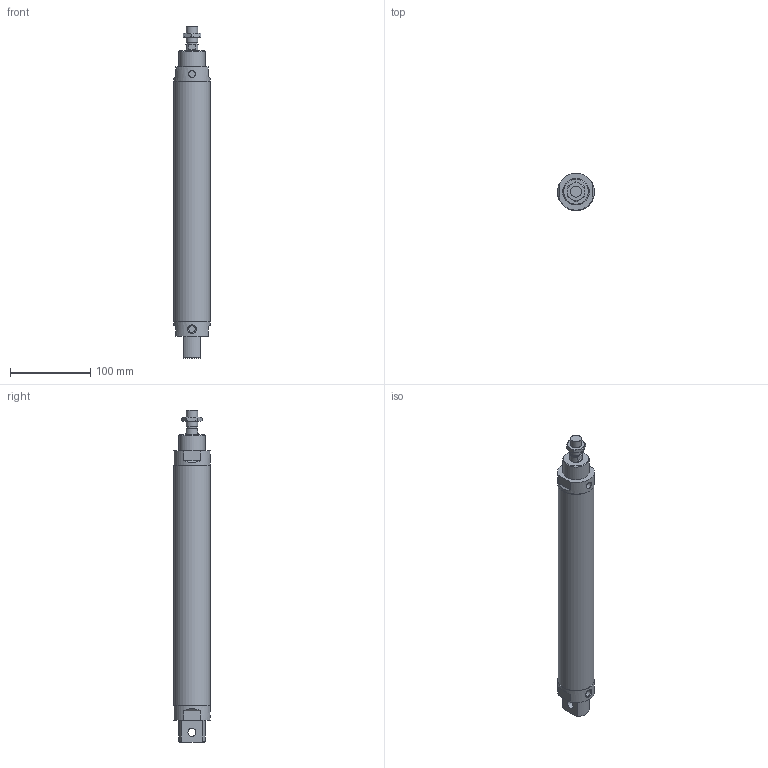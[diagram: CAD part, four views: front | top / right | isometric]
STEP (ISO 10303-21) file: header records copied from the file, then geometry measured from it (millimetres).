
FILE_DESCRIPTION((''),'2;1');
FILE_NAME('I:\3D電子目錄\氣缸\FDA\FDA\FDA\FDA40\FDA40x250.stp','2007-10-23T13:32:49',('66-2f-008'),(''),'Autodesk Inventor 11','Autodesk Inventor 11','');
FILE_SCHEMA(('AUTOMOTIVE_DESIGN { 1 0 10303 214 1 1 1 1 }'));
Length unit declared in the file: millimetre
Products named in the file (1): FDA40
Bounding box: 45.99 x 45.95 x 414 mm (x, y, z)
Volume: 572643.8 mm3; surface area: 58518.1 mm2
Topology: 1 solids, 1 shells, 62 faces, 144 edges, 95 vertices
Faces by surface type: plane 29, cone 15, cylinder 13, bspline 5
Full cylindrical faces by diameter (mm): 8.5 x2, 10 x1, 12 x1, 14 x2, 16 x1, 33 x1, 45 x1, 46 x2
Entity records: 1911 total; most frequent: CARTESIAN_POINT 620, DIRECTION 256, ORIENTED_EDGE 250, EDGE_CURVE 125, AXIS2_PLACEMENT_3D 106, VERTEX_POINT 88, EDGE_LOOP 87, FACE_OUTER_BOUND 62
